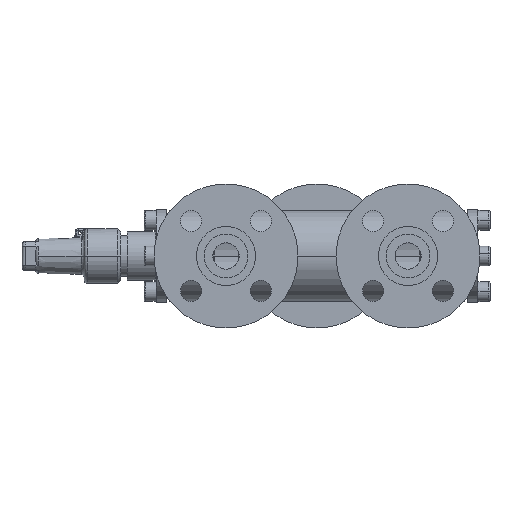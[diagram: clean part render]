
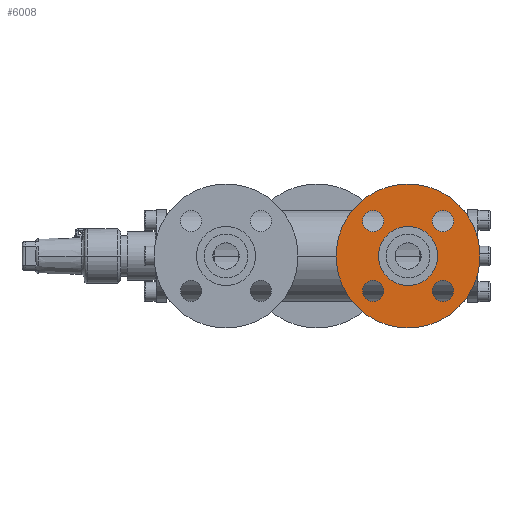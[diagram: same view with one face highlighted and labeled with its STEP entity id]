
A CAD part, left-side view. The second image highlights one B-rep face of the part: STEP entity #6008.
In plain terms, the highlighted planar face has unit normal (-1, 0, 0) as drawn and (0, -1, 0) by its records, which use the part's own axes.
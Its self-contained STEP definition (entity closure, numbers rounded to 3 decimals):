
#142 = CIRCLE ( 'NONE', #143, 7. ) ;
#143 = AXIS2_PLACEMENT_3D ( 'NONE', #144, #145, #146 ) ;
#144 = CARTESIAN_POINT ( 'NONE',  ( 0., 4., 32.5 ) ) ;
#145 = DIRECTION ( 'NONE',  ( 0., 1., 0. ) ) ;
#146 = DIRECTION ( 'NONE',  ( 1., 0., 0. ) ) ;
#16574 = EDGE_CURVE ( 'NONE', #26720, #26954, #6861, .T. ) ;
#220 = CIRCLE ( 'NONE', #221, 19.5 ) ;
#221 = AXIS2_PLACEMENT_3D ( 'NONE', #222, #223, #224 ) ;
#222 = CARTESIAN_POINT ( 'NONE',  ( 0., 4., 0. ) ) ;
#223 = DIRECTION ( 'NONE',  ( 0., -1., 0. ) ) ;
#224 = DIRECTION ( 'NONE',  ( 1., 0., 0. ) ) ;
#1007 = ORIENTED_EDGE ( 'NONE', *, *, #27111, .T. ) ;
#1366 = CIRCLE ( 'NONE', #1367, 7. ) ;
#1367 = AXIS2_PLACEMENT_3D ( 'NONE', #1386, #1387, #1388 ) ;
#1386 = CARTESIAN_POINT ( 'NONE',  ( 0., 4., -32.5 ) ) ;
#1387 = DIRECTION ( 'NONE',  ( 0., 1., 0. ) ) ;
#1388 = DIRECTION ( 'NONE',  ( 1., 0., 0. ) ) ;
#1725 = EDGE_CURVE ( 'NONE', #25757, #25991, #2514, .T. ) ;
#18183 = VERTEX_POINT ( 'NONE', #9168 ) ;
#1978 = ORIENTED_EDGE ( 'NONE', *, *, #5582, .T. ) ;
#2514 = CIRCLE ( 'NONE', #2515, 7. ) ;
#2515 = AXIS2_PLACEMENT_3D ( 'NONE', #2516, #2517, #2518 ) ;
#2516 = CARTESIAN_POINT ( 'NONE',  ( -32.5, 4., 0. ) ) ;
#2517 = DIRECTION ( 'NONE',  ( 0., 1., 0. ) ) ;
#2518 = DIRECTION ( 'NONE',  ( 1., 0., 0. ) ) ;
#2982 = EDGE_LOOP ( 'NONE', ( #1978, #1007 ) ) ;
#3444 = ORIENTED_EDGE ( 'NONE', *, *, #5125, .T. ) ;
#3750 = CARTESIAN_POINT ( 'NONE',  ( -39.5, 4., 0. ) ) ;
#20540 = VERTEX_POINT ( 'NONE', #14438 ) ;
#20582 = CIRCLE ( 'NONE', #20583, 19.5 ) ;
#20583 = AXIS2_PLACEMENT_3D ( 'NONE', #20584, #20585, #20586 ) ;
#20584 = CARTESIAN_POINT ( 'NONE',  ( 0., 4., 0. ) ) ;
#20585 = DIRECTION ( 'NONE',  ( 0., -1., 0. ) ) ;
#20586 = DIRECTION ( 'NONE',  ( 1., 0., 0. ) ) ;
#4254 = CARTESIAN_POINT ( 'NONE',  ( -25.5, 4., 0. ) ) ;
#4264 = VERTEX_POINT ( 'NONE', #7398 ) ;
#20776 = VERTEX_POINT ( 'NONE', #14756 ) ;
#4560 = ORIENTED_EDGE ( 'NONE', *, *, #11745, .T. ) ;
#4561 = ORIENTED_EDGE ( 'NONE', *, *, #16574, .T. ) ;
#21012 = EDGE_CURVE ( 'NONE', #20776, #20540, #14897, .T. ) ;
#4702 = VERTEX_POINT ( 'NONE', #7886 ) ;
#4737 = CIRCLE ( 'NONE', #4756, 7. ) ;
#4756 = AXIS2_PLACEMENT_3D ( 'NONE', #4757, #4758, #4759 ) ;
#4757 = CARTESIAN_POINT ( 'NONE',  ( -32.5, 4., 0. ) ) ;
#4758 = DIRECTION ( 'NONE',  ( 0., 1., 0. ) ) ;
#4759 = DIRECTION ( 'NONE',  ( 1., 0., 0. ) ) ;
#21354 = VERTEX_POINT ( 'NONE', #15677 ) ;
#5125 = EDGE_CURVE ( 'NONE', #4702, #4264, #8259, .T. ) ;
#5546 = EDGE_LOOP ( 'NONE', ( #4561, #26680 ) ) ;
#5582 = EDGE_CURVE ( 'NONE', #21354, #18183, #8366, .T. ) ;
#5861 = EDGE_LOOP ( 'NONE', ( #4560, #3444 ) ) ;
#6008 = ADVANCED_FACE ( 'NONE', ( #8481, #8482, #8483, #8507, #8508, #8509 ), #8510, .T. ) ;
#6129 = CARTESIAN_POINT ( 'NONE',  ( 25.5, 4., 0. ) ) ;
#6314 = ORIENTED_EDGE ( 'NONE', *, *, #21012, .T. ) ;
#6451 = CARTESIAN_POINT ( 'NONE',  ( 39.5, 4., 0. ) ) ;
#22891 = CARTESIAN_POINT ( 'NONE',  ( -19.5, 4., 0. ) ) ;
#6861 = CIRCLE ( 'NONE', #6862, 7. ) ;
#6862 = AXIS2_PLACEMENT_3D ( 'NONE', #6863, #6864, #6865 ) ;
#6863 = CARTESIAN_POINT ( 'NONE',  ( 32.5, 4., 0. ) ) ;
#6864 = DIRECTION ( 'NONE',  ( 0., 1., 0. ) ) ;
#6865 = DIRECTION ( 'NONE',  ( 1., 0., 0. ) ) ;
#6902 = CIRCLE ( 'NONE', #6903, 47.5 ) ;
#6903 = AXIS2_PLACEMENT_3D ( 'NONE', #6904, #6905, #6906 ) ;
#6904 = CARTESIAN_POINT ( 'NONE',  ( 0., 4., 0. ) ) ;
#6905 = DIRECTION ( 'NONE',  ( 0., -1., 0. ) ) ;
#6906 = DIRECTION ( 'NONE',  ( 1., 0., 0. ) ) ;
#7007 = CIRCLE ( 'NONE', #7008, 7. ) ;
#7008 = AXIS2_PLACEMENT_3D ( 'NONE', #7009, #7010, #7011 ) ;
#7009 = CARTESIAN_POINT ( 'NONE',  ( 32.5, 4., 0. ) ) ;
#7010 = DIRECTION ( 'NONE',  ( 0., 1., 0. ) ) ;
#7011 = DIRECTION ( 'NONE',  ( 1., 0., 0. ) ) ;
#7309 = ORIENTED_EDGE ( 'NONE', *, *, #25282, .T. ) ;
#7398 = CARTESIAN_POINT ( 'NONE',  ( -7., 4., 32.5 ) ) ;
#24147 = VERTEX_POINT ( 'NONE', #22891 ) ;
#7886 = CARTESIAN_POINT ( 'NONE',  ( 7., 4., 32.5 ) ) ;
#24288 = VERTEX_POINT ( 'NONE', #27499 ) ;
#24527 = EDGE_CURVE ( 'NONE', #24288, #24147, #220, .T. ) ;
#8259 = CIRCLE ( 'NONE', #8260, 7. ) ;
#8260 = AXIS2_PLACEMENT_3D ( 'NONE', #8261, #8262, #8263 ) ;
#8261 = CARTESIAN_POINT ( 'NONE',  ( 0., 4., 32.5 ) ) ;
#8262 = DIRECTION ( 'NONE',  ( 0., 1., 0. ) ) ;
#8263 = DIRECTION ( 'NONE',  ( 1., 0., 0. ) ) ;
#8292 = EDGE_LOOP ( 'NONE', ( #7309, #6314 ) ) ;
#8366 = CIRCLE ( 'NONE', #8367, 47.5 ) ;
#8367 = AXIS2_PLACEMENT_3D ( 'NONE', #8368, #8369, #8370 ) ;
#8368 = CARTESIAN_POINT ( 'NONE',  ( 0., 4., 0. ) ) ;
#8369 = DIRECTION ( 'NONE',  ( 0., -1., 0. ) ) ;
#8370 = DIRECTION ( 'NONE',  ( 1., 0., 0. ) ) ;
#8481 = FACE_BOUND ( 'NONE', #5546, .T. ) ;
#8482 = FACE_BOUND ( 'NONE', #26469, .T. ) ;
#8483 = FACE_BOUND ( 'NONE', #12059, .T. ) ;
#8507 = FACE_BOUND ( 'NONE', #8292, .T. ) ;
#8508 = FACE_BOUND ( 'NONE', #5861, .T. ) ;
#8509 = FACE_OUTER_BOUND ( 'NONE', #2982, .T. ) ;
#8510 = PLANE ( 'NONE',  #8511 ) ;
#8511 = AXIS2_PLACEMENT_3D ( 'NONE', #8512, #8513, #8514 ) ;
#8512 = CARTESIAN_POINT ( 'NONE',  ( 0., 4., 0. ) ) ;
#8513 = DIRECTION ( 'NONE',  ( 0., -1., 0. ) ) ;
#8514 = DIRECTION ( 'NONE',  ( 1., 0., 0. ) ) ;
#25282 = EDGE_CURVE ( 'NONE', #20540, #20776, #1366, .T. ) ;
#9168 = CARTESIAN_POINT ( 'NONE',  ( 47.5, 4., 0. ) ) ;
#9349 = EDGE_CURVE ( 'NONE', #24147, #24288, #20582, .T. ) ;
#25757 = VERTEX_POINT ( 'NONE', #3750 ) ;
#25916 = ORIENTED_EDGE ( 'NONE', *, *, #1725, .T. ) ;
#25991 = VERTEX_POINT ( 'NONE', #4254 ) ;
#26234 = EDGE_CURVE ( 'NONE', #25991, #25757, #4737, .T. ) ;
#10069 = ORIENTED_EDGE ( 'NONE', *, *, #9349, .F. ) ;
#26469 = EDGE_LOOP ( 'NONE', ( #25916, #12519 ) ) ;
#26680 = ORIENTED_EDGE ( 'NONE', *, *, #27187, .T. ) ;
#26720 = VERTEX_POINT ( 'NONE', #6129 ) ;
#26954 = VERTEX_POINT ( 'NONE', #6451 ) ;
#27111 = EDGE_CURVE ( 'NONE', #18183, #21354, #6902, .T. ) ;
#27187 = EDGE_CURVE ( 'NONE', #26954, #26720, #7007, .T. ) ;
#11060 = ORIENTED_EDGE ( 'NONE', *, *, #24527, .F. ) ;
#27499 = CARTESIAN_POINT ( 'NONE',  ( 19.5, 4., 0. ) ) ;
#11745 = EDGE_CURVE ( 'NONE', #4264, #4702, #142, .T. ) ;
#12059 = EDGE_LOOP ( 'NONE', ( #11060, #10069 ) ) ;
#12519 = ORIENTED_EDGE ( 'NONE', *, *, #26234, .T. ) ;
#14438 = CARTESIAN_POINT ( 'NONE',  ( -7., 4., -32.5 ) ) ;
#14756 = CARTESIAN_POINT ( 'NONE',  ( 7., 4., -32.5 ) ) ;
#14897 = CIRCLE ( 'NONE', #14898, 7. ) ;
#14898 = AXIS2_PLACEMENT_3D ( 'NONE', #14899, #14900, #14901 ) ;
#14899 = CARTESIAN_POINT ( 'NONE',  ( 0., 4., -32.5 ) ) ;
#14900 = DIRECTION ( 'NONE',  ( 0., 1., 0. ) ) ;
#14901 = DIRECTION ( 'NONE',  ( 1., 0., 0. ) ) ;
#15677 = CARTESIAN_POINT ( 'NONE',  ( -47.5, 4., 0. ) ) ;
